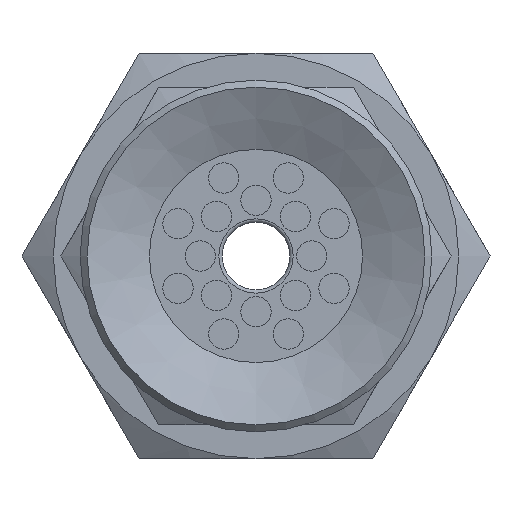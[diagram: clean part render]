
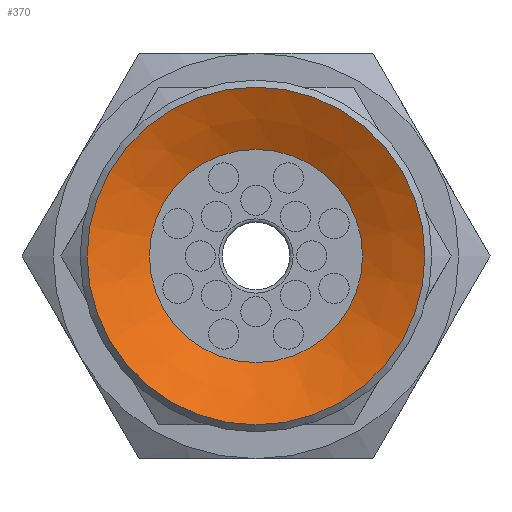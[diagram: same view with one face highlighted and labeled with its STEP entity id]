
A CAD part, front view. The second image highlights one B-rep face of the part: STEP entity #370.
In plain terms, the highlighted conical face has half-angle 64 degrees and reference radius 5 mm.
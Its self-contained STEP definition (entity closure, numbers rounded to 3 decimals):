
#370=ADVANCED_FACE('',(#640,#641),#642,.F.);
#640=FACE_BOUND('',#959,.T.);
#641=FACE_OUTER_BOUND('',#960,.T.);
#642=CONICAL_SURFACE('',#961,5.0,1.117);
#959=EDGE_LOOP('',(#1593));
#960=EDGE_LOOP('',(#1594));
#961=AXIS2_PLACEMENT_3D('',#1595,#1596,#1597);
#1593=ORIENTED_EDGE('',*,*,#1886,.T.);
#1594=ORIENTED_EDGE('',*,*,#1870,.F.);
#1595=CARTESIAN_POINT('',(0.0,0.,0.));
#1596=DIRECTION('',(0.0,0.,-1.0));
#1597=DIRECTION('',(0.0,1.0,0.));
#1870=EDGE_CURVE('',#2143,#2143,#2144,.T.);
#1886=EDGE_CURVE('',#2175,#2175,#2176,.T.);
#2143=VERTEX_POINT('',#2883);
#2144=CIRCLE('',#2884,5.0);
#2175=VERTEX_POINT('',#2915);
#2176=CIRCLE('',#2916,3.155);
#2883=CARTESIAN_POINT('',(0.0,-5.0,0.));
#2884=AXIS2_PLACEMENT_3D('',#3181,#3182,#3183);
#2915=CARTESIAN_POINT('',(0.0,-3.155,0.9));
#2916=AXIS2_PLACEMENT_3D('',#3229,#3230,#3231);
#3181=CARTESIAN_POINT('',(0.0,0.,0.));
#3182=DIRECTION('',(0.0,0.,1.0));
#3183=DIRECTION('',(0.0,-1.0,0.));
#3229=CARTESIAN_POINT('',(0.0,0.,0.9));
#3230=DIRECTION('',(0.0,0.,1.0));
#3231=DIRECTION('',(0.0,-1.0,0.));
